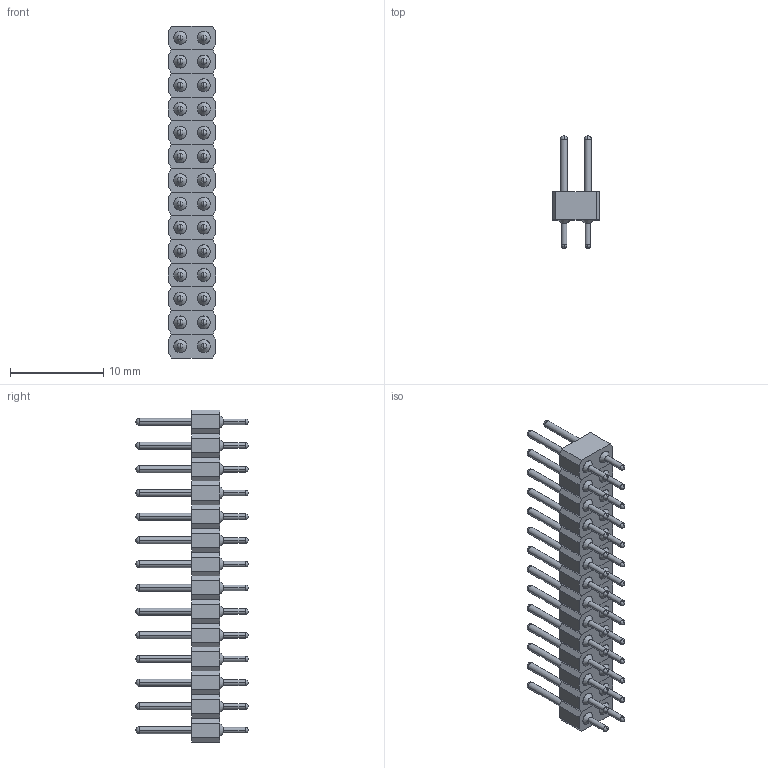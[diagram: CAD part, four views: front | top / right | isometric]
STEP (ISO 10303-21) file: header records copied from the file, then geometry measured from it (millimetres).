
FILE_DESCRIPTION(/* description */ (''),/* implementation_level */ '2;1');
FILE_NAME(/* name */ 'PZ254-2-14-Z-3.0-XX-CC (2.54双排 双头 圆直排针 L12.01 塑高3.0 上针0.75 下针0.6)-HCTL.stp',/* time_stamp */ '2026-10-23T10:59:26+08:00',/* author */ (''),/* organization */ (''),/* preprocessor_version */ 'ST-DEVELOPER v16',/* originating_system */ 'SIEMENS PLM Software NX 10.0',/* authorisation */ '');
FILE_SCHEMA (('AUTOMOTIVE_DESIGN { 1 0 10303 214 3 1 1 1 }'));
Length unit declared in the file: millimetre
Products named in the file (1): PZ254-2-N-Z-3.0-XX-CC (2.54双排 双头 \X2\5706
76F463929488\X0\ L12.01 塑高3.0 上针0.75 \X2\4E0B
9488\X0\0.6)-HCTL
Bounding box: 5.08 x 12.01 x 35.56 mm (x, y, z)
Volume: 626.8 mm3; surface area: 2338.3 mm2
Topology: 42 solids, 42 shells, 840 faces, 1904 edges, 1176 vertices
Faces by surface type: cylinder 364, plane 280, sphere 112, cone 84
Full cylindrical faces by diameter (mm): 1.39 x28
Entity records: 23193 total; most frequent: CARTESIAN_POINT 4593, DIRECTION 4034, ORIENTED_EDGE 3416, AXIS2_PLACEMENT_3D 1709, EDGE_CURVE 1708, VERTEX_POINT 1148, EDGE_LOOP 1092, CIRCLE 868
